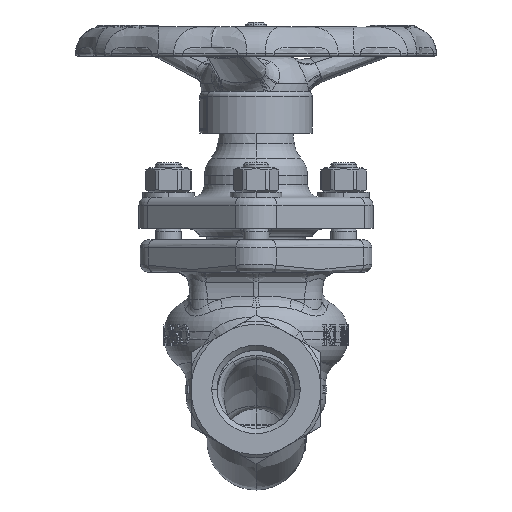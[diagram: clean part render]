
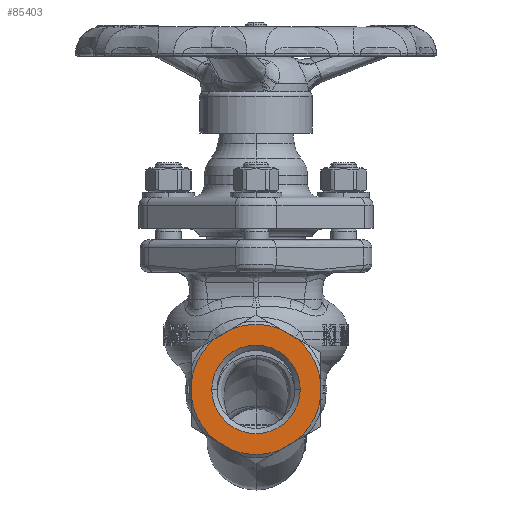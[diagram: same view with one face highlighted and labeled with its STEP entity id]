
A CAD part, left-side view. The second image highlights one B-rep face of the part: STEP entity #85403.
In plain terms, the highlighted planar face has unit normal (-1, 0, 0).
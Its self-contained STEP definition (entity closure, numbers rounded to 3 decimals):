
#20968=DIRECTION('',(0.,0.,-1.));
#20969=VECTOR('',#20968,6.857);
#20970=CARTESIAN_POINT('',(-67.5,-25.,3.429));
#20971=LINE('',#20970,#20969);
#21007=CARTESIAN_POINT('',(-67.5,0.,0.));
#21008=DIRECTION('',(1.,0.,0.));
#21009=DIRECTION('',(0.,-1.,0.));
#21010=AXIS2_PLACEMENT_3D('',#21007,#21008,#21009);
#21012=CARTESIAN_POINT('',(-67.5,0.,0.));
#21013=DIRECTION('',(1.,0.,0.));
#21014=DIRECTION('',(0.,1.,0.));
#21015=AXIS2_PLACEMENT_3D('',#21012,#21013,#21014);
#21031=CARTESIAN_POINT('',(-67.5,0.,0.));
#21032=DIRECTION('',(-1.,0.,0.));
#21033=DIRECTION('',(0.,0.378,-0.926));
#21034=AXIS2_PLACEMENT_3D('',#21031,#21032,#21033);
#21065=DIRECTION('',(0.,0.866,-0.5));
#21066=VECTOR('',#21065,6.857);
#21067=CARTESIAN_POINT('',(-67.5,-15.469,-19.936));
#21068=LINE('',#21067,#21066);
#21111=CARTESIAN_POINT('',(-67.5,0.,0.));
#21112=DIRECTION('',(-1.,0.,0.));
#21113=DIRECTION('',(0.,-0.613,-0.79));
#21114=AXIS2_PLACEMENT_3D('',#21111,#21112,#21113);
#21207=DIRECTION('',(0.,0.866,0.5));
#21208=VECTOR('',#21207,6.857);
#21209=CARTESIAN_POINT('',(-67.5,9.531,-23.365));
#21210=LINE('',#21209,#21208);
#21269=DIRECTION('',(0.,0.,1.));
#21270=VECTOR('',#21269,6.857);
#21271=CARTESIAN_POINT('',(-67.5,25.,-3.429));
#21272=LINE('',#21271,#21270);
#21308=CARTESIAN_POINT('',(-67.5,0.,0.));
#21309=DIRECTION('',(-1.,0.,0.));
#21310=DIRECTION('',(0.,0.991,-0.136));
#21311=AXIS2_PLACEMENT_3D('',#21308,#21309,#21310);
#21356=DIRECTION('',(0.,-0.866,0.5));
#21357=VECTOR('',#21356,6.857);
#21358=CARTESIAN_POINT('',(-67.5,15.469,19.936));
#21359=LINE('',#21358,#21357);
#21402=CARTESIAN_POINT('',(-67.5,0.,0.));
#21403=DIRECTION('',(-1.,0.,0.));
#21404=DIRECTION('',(0.,0.613,0.79));
#21405=AXIS2_PLACEMENT_3D('',#21402,#21403,#21404);
#21466=DIRECTION('',(0.,-0.866,-0.5));
#21467=VECTOR('',#21466,6.857);
#21468=CARTESIAN_POINT('',(-67.5,-9.531,23.365));
#21469=LINE('',#21468,#21467);
#21512=CARTESIAN_POINT('',(-67.5,0.,0.));
#21513=DIRECTION('',(-1.,0.,0.));
#21514=DIRECTION('',(0.,-0.378,0.926));
#21515=AXIS2_PLACEMENT_3D('',#21512,#21513,#21514);
#21585=CARTESIAN_POINT('',(-67.5,0.,0.));
#21586=DIRECTION('',(-1.,0.,0.));
#21587=DIRECTION('',(0.,-0.991,0.136));
#21588=AXIS2_PLACEMENT_3D('',#21585,#21586,#21587);
#35578=CARTESIAN_POINT('',(-67.5,-17.146,0.));
#35579=CARTESIAN_POINT('',(-67.5,17.146,0.));
#35580=VERTEX_POINT('',#35578);
#35581=VERTEX_POINT('',#35579);
#37631=CARTESIAN_POINT('',(-67.5,-15.469,-19.936));
#37632=CARTESIAN_POINT('',(-67.5,-25.,-3.429));
#37633=VERTEX_POINT('',#37631);
#37634=VERTEX_POINT('',#37632);
#37635=CARTESIAN_POINT('',(-67.5,-25.,3.429));
#37636=CARTESIAN_POINT('',(-67.5,-15.469,19.936));
#37637=VERTEX_POINT('',#37635);
#37638=VERTEX_POINT('',#37636);
#37639=CARTESIAN_POINT('',(-67.5,15.469,19.936));
#37640=CARTESIAN_POINT('',(-67.5,25.,3.429));
#37641=VERTEX_POINT('',#37639);
#37642=VERTEX_POINT('',#37640);
#37643=CARTESIAN_POINT('',(-67.5,25.,-3.429));
#37644=CARTESIAN_POINT('',(-67.5,15.469,-19.936));
#37645=VERTEX_POINT('',#37643);
#37646=VERTEX_POINT('',#37644);
#37663=CARTESIAN_POINT('',(-67.5,-9.531,23.365));
#37664=VERTEX_POINT('',#37663);
#37667=CARTESIAN_POINT('',(-67.5,-9.531,-23.365));
#37668=VERTEX_POINT('',#37667);
#37671=CARTESIAN_POINT('',(-67.5,9.531,-23.365));
#37672=VERTEX_POINT('',#37671);
#37675=CARTESIAN_POINT('',(-67.5,9.531,23.365));
#37676=VERTEX_POINT('',#37675);
#85367=CARTESIAN_POINT('',(-67.5,0.,0.));
#85368=DIRECTION('',(-1.,0.,0.));
#85369=DIRECTION('',(0.,0.,1.));
#85370=AXIS2_PLACEMENT_3D('',#85367,#85368,#85369);
#85371=PLANE('',#85370);
#85373=ORIENTED_EDGE('',*,*,#85372,.F.);
#85375=ORIENTED_EDGE('',*,*,#85374,.T.);
#85377=ORIENTED_EDGE('',*,*,#85376,.F.);
#85379=ORIENTED_EDGE('',*,*,#85378,.T.);
#85381=ORIENTED_EDGE('',*,*,#85380,.F.);
#85383=ORIENTED_EDGE('',*,*,#85382,.T.);
#85385=ORIENTED_EDGE('',*,*,#85384,.F.);
#85387=ORIENTED_EDGE('',*,*,#85386,.T.);
#85389=ORIENTED_EDGE('',*,*,#85388,.F.);
#85390=ORIENTED_EDGE('',*,*,#85347,.T.);
#85392=ORIENTED_EDGE('',*,*,#85391,.F.);
#85394=ORIENTED_EDGE('',*,*,#85393,.T.);
#85395=EDGE_LOOP('',(#85373,#85375,#85377,#85379,#85381,#85383,#85385,#85387,
#85389,#85390,#85392,#85394));
#85396=FACE_OUTER_BOUND('',#85395,.F.);
#85398=ORIENTED_EDGE('',*,*,#85397,.F.);
#85400=ORIENTED_EDGE('',*,*,#85399,.F.);
#85401=EDGE_LOOP('',(#85398,#85400));
#85402=FACE_BOUND('',#85401,.F.);
#85403=ADVANCED_FACE('',(#85396,#85402),#85371,.T.);
#21011=CIRCLE('',#21010,17.146);
#21016=CIRCLE('',#21015,17.146);
#21035=CIRCLE('',#21034,25.234);
#21115=CIRCLE('',#21114,25.234);
#21312=CIRCLE('',#21311,25.234);
#21406=CIRCLE('',#21405,25.234);
#21516=CIRCLE('',#21515,25.234);
#21589=CIRCLE('',#21588,25.234);
#85347=EDGE_CURVE('',#37637,#37634,#20971,.T.);
#85372=EDGE_CURVE('',#37672,#37668,#21035,.T.);
#85374=EDGE_CURVE('',#37672,#37646,#21210,.T.);
#85376=EDGE_CURVE('',#37645,#37646,#21312,.T.);
#85378=EDGE_CURVE('',#37645,#37642,#21272,.T.);
#85380=EDGE_CURVE('',#37641,#37642,#21406,.T.);
#85382=EDGE_CURVE('',#37641,#37676,#21359,.T.);
#85384=EDGE_CURVE('',#37664,#37676,#21516,.T.);
#85386=EDGE_CURVE('',#37664,#37638,#21469,.T.);
#85388=EDGE_CURVE('',#37637,#37638,#21589,.T.);
#85391=EDGE_CURVE('',#37633,#37634,#21115,.T.);
#85393=EDGE_CURVE('',#37633,#37668,#21068,.T.);
#85397=EDGE_CURVE('',#35580,#35581,#21011,.T.);
#85399=EDGE_CURVE('',#35581,#35580,#21016,.T.);
